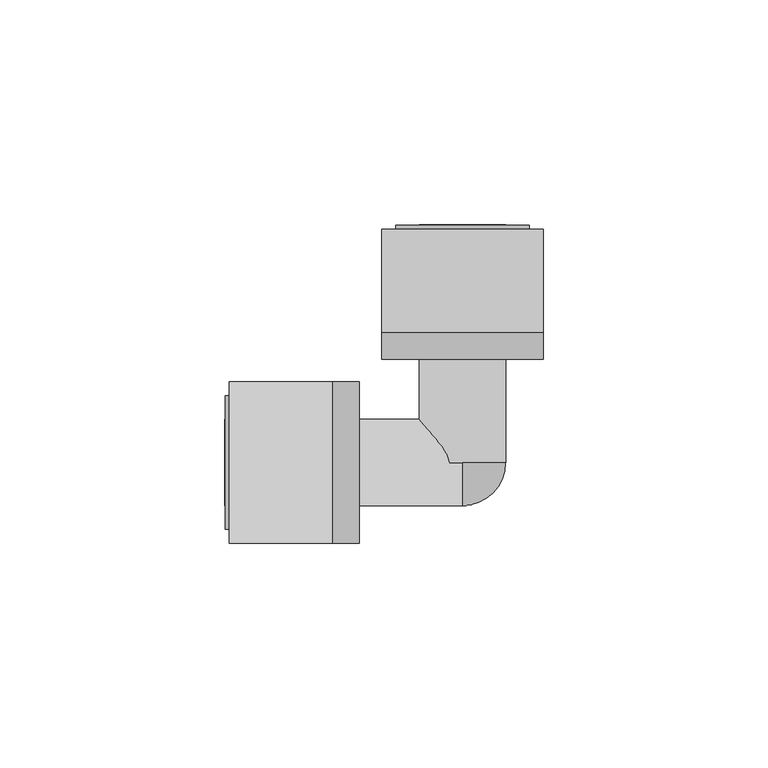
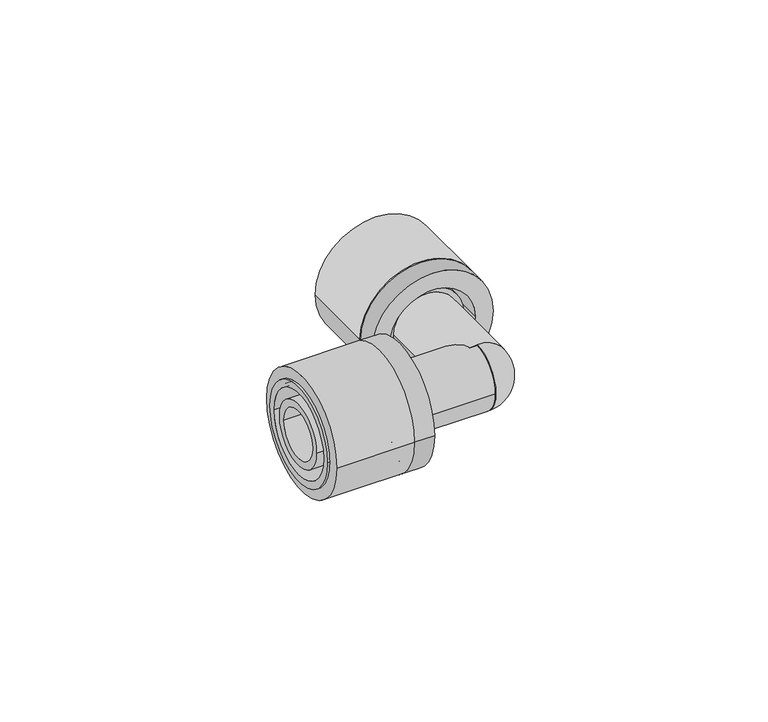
"""IFC4 building model written with IfcOpenShell, lengths in millimetres: pipe fitting geometry, FASTLOC_Corner EX+ : FSL C EX+ AT."""

from ifc_helpers import new_model, si_unit, point, frame, origin, origin_2d, place, context, project, spatial, polyline, circle_curve, ellipse_curve, trimmed, segment, composite_curve, outline, extrude, source, transform, mapped, element, save
from ifc_brep_helpers import plane_surface, cylinder_surface, revolved_surface, advanced_brep


def pipe_fitting_a5f7744a(model_context):
    return source(origin(), model_context, "Body", "SolidModel", [
        extrude(outline(composite_curve([segment(trimmed(circle_curve(origin_2d(), 18.0), [point((0.0, 18.0))], [point((0.0, -18.0))], False, "CARTESIAN"), True, "CONTINUOUS"), segment(trimmed(circle_curve(origin_2d(), 18.0), [point((0.0, -18.0))], [point((0.0, 18.0))], False, "CARTESIAN"), True, "CONTINUOUS")], self_intersect=False), holes=[composite_curve([segment(trimmed(circle_curve(origin_2d(), 13.5), [point((0.0, 13.5))], [point((0.0, -13.5))], True, "CARTESIAN"), True, "CONTINUOUS"), segment(trimmed(circle_curve(origin_2d(), 13.5), [point((0.0, -13.5))], [point((0.0, 13.5))], True, "CARTESIAN"), True, "CONTINUOUS")], self_intersect=False)]), frame((0.0, 29.0, 0.0), z_axis=(0.0, 1.0, 0.0), x_axis=(0.0, 0.0, 1.0)), (0.0, 0.0, 1.0), 23.0),
        advanced_brep(
        [(-18.0, 29.0, 0.0), (18.0, 29.0, 0.0), (18.0, 23.0, 0.0), (-18.0, 23.0, 0.0), (-14.85, 52.8, 0.0), (14.85, 52.8, 0.0), (14.85, 29.0, 0.0), (-14.85, 29.0, 0.0), (-12.65, 23.0, 0.0), (12.65, 23.0, 0.0), (12.65, 52.8, 0.0), (-12.65, 52.8, 0.0)],
        [
            (0, 1, circle_curve(frame((0.0, 29.0, 0.0), z_axis=(0.0, -1.0, 0.0), x_axis=(1.0, 0.0, 0.0)), 18.0)),
            (1, 2),
            (2, 3, circle_curve(frame((0.0, 23.0, 0.0), z_axis=(0.0, 1.0, 0.0), x_axis=(1.0, 0.0, 0.0)), 18.0)),
            (3, 0),
            (4, 5, circle_curve(frame((0.0, 52.8, 0.0), z_axis=(0.0, -1.0, 0.0), x_axis=(1.0, 0.0, 0.0)), 14.85)),
            (5, 6),
            (6, 7, circle_curve(frame((0.0, 29.0, 0.0), z_axis=(0.0, 1.0, 0.0), x_axis=(1.0, 0.0, 0.0)), 14.85)),
            (7, 4),
            (8, 9, circle_curve(frame((0.0, 23.0, 0.0), z_axis=(0.0, -1.0, 0.0), x_axis=(1.0, 0.0, 0.0)), 12.65)),
            (9, 10),
            (10, 11, circle_curve(frame((0.0, 52.8, 0.0), z_axis=(0.0, 1.0, 0.0), x_axis=(1.0, 0.0, 0.0)), 12.65)),
            (11, 8),
            (1, 0, circle_curve(frame((0.0, 29.0, 0.0), z_axis=(0.0, -1.0, 0.0), x_axis=(-1.0, 0.0, 0.0)), 18.0)),
            (3, 2, circle_curve(frame((0.0, 23.0, 0.0), z_axis=(0.0, 1.0, 0.0), x_axis=(-1.0, 0.0, 0.0)), 18.0)),
            (6, 7, circle_curve(frame((0.0, 29.0, 0.0), z_axis=(0.0, -1.0, 0.0), x_axis=(-1.0, 0.0, 0.0)), 14.85)),
            (5, 4, circle_curve(frame((0.0, 52.8, 0.0), z_axis=(0.0, -1.0, 0.0), x_axis=(-1.0, 0.0, 0.0)), 14.85)),
            (10, 11, circle_curve(frame((0.0, 52.8, 0.0), z_axis=(0.0, -1.0, 0.0), x_axis=(-1.0, 0.0, 0.0)), 12.65)),
            (9, 8, circle_curve(frame((0.0, 23.0, 0.0), z_axis=(0.0, -1.0, 0.0), x_axis=(-1.0, 0.0, 0.0)), 12.65)),
        ],
        [
            cylinder_surface(frame((0.0, 23.0, 0.0), z_axis=(0.0, 1.0, 0.0), x_axis=(1.0, 0.0, 0.0)), 18.0),
            cylinder_surface(frame((0.0, 23.0, 0.0), z_axis=(0.0, 1.0, 0.0), x_axis=(1.0, 0.0, 0.0)), 14.85),
            revolved_surface(polyline([(12.65, 52.8, 0.0), (12.65, 23.0, 0.0)]), (0.0, 23.0, 0.0), (0.0, 1.0, 0.0)),
            cylinder_surface(frame((0.0, 23.0, 0.0), z_axis=(0.0, 1.0, 0.0), x_axis=(-1.0, 0.0, 0.0)), 18.0),
            plane_surface(frame((0.0, 29.0, 0.0), z_axis=(0.0, 1.0, 0.0), x_axis=(-1.0, 0.0, 0.0))),
            cylinder_surface(frame((0.0, 23.0, 0.0), z_axis=(0.0, 1.0, 0.0), x_axis=(-1.0, 0.0, 0.0)), 14.85),
            plane_surface(frame((0.0, 52.8, 0.0), z_axis=(0.0, 1.0, 0.0), x_axis=(-1.0, 0.0, 0.0))),
            revolved_surface(polyline([(-12.65, 52.8, 0.0), (-12.65, 23.0, 0.0)]), (0.0, 23.0, 0.0), (0.0, 1.0, 0.0)),
            plane_surface(frame((0.0, 23.0, 0.0), z_axis=(0.0, -1.0, 0.0), x_axis=(-1.0, 0.0, 0.0))),
        ],
        [
            (0, [[1, 2, 3, 4]]),
            (1, [[5, 6, 7, 8]]),
            (2, [[9, 10, 11, 12]]),
            (3, [[13, -4, 14, -2]]),
            (4, [[-13, -1], [15, -7]]),
            (5, [[16, -8, -15, -6]]),
            (6, [[-16, -5], [17, -11]]),
            (7, [[18, -12, -17, -10]]),
            (8, [[-14, -3], [-18, -9]]),
        ],
    ),
        extrude(outline(composite_curve([segment(trimmed(circle_curve(origin_2d(), 18.0), [point((18.0, 0.0))], [point((-18.0, 0.0))], False, "CARTESIAN"), True, "CONTINUOUS"), segment(trimmed(circle_curve(origin_2d(), 18.0), [point((-18.0, 0.0))], [point((18.0, 0.0))], False, "CARTESIAN"), True, "CONTINUOUS")], self_intersect=False), holes=[composite_curve([segment(trimmed(circle_curve(origin_2d(), 13.5), [point((13.5, 0.0))], [point((-13.5, 0.0))], True, "CARTESIAN"), True, "CONTINUOUS"), segment(trimmed(circle_curve(origin_2d(), 13.5), [point((-13.5, 0.0))], [point((13.5, 0.0))], True, "CARTESIAN"), True, "CONTINUOUS")], self_intersect=False)]), frame((-52.0, 0.0, 0.0), z_axis=(1.0, 0.0, 0.0), x_axis=(0.0, 1.0, 0.0)), (0.0, 0.0, 1.0), 23.0),
        advanced_brep(
        [(-29.0, -18.0, 0.0), (-29.0, 18.0, 0.0), (-23.0, 18.0, 0.0), (-23.0, -18.0, 0.0), (-52.8, -14.85, 0.0), (-52.8, 14.85, 0.0), (-29.0, 14.85, 0.0), (-29.0, -14.85, 0.0), (-23.0, -12.65, 0.0), (-23.0, 12.65, 0.0), (-52.8, 12.65, 0.0), (-52.8, -12.65, 0.0)],
        [
            (0, 1, circle_curve(frame((-29.0, 0.0, 0.0), z_axis=(1.0, 0.0, 0.0), x_axis=(0.0, 1.0, 0.0)), 18.0)),
            (1, 2),
            (2, 3, circle_curve(frame((-23.0, 0.0, 0.0), z_axis=(-1.0, 0.0, 0.0), x_axis=(0.0, 1.0, 0.0)), 18.0)),
            (3, 0),
            (4, 5, circle_curve(frame((-52.8, 0.0, 0.0), z_axis=(1.0, 0.0, 0.0), x_axis=(0.0, 1.0, 0.0)), 14.85)),
            (5, 6),
            (6, 7, circle_curve(frame((-29.0, 0.0, 0.0), z_axis=(-1.0, 0.0, 0.0), x_axis=(0.0, 1.0, 0.0)), 14.85)),
            (7, 4),
            (8, 9, circle_curve(frame((-23.0, 0.0, 0.0), z_axis=(1.0, 0.0, 0.0), x_axis=(0.0, 1.0, 0.0)), 12.65)),
            (9, 10),
            (10, 11, circle_curve(frame((-52.8, 0.0, 0.0), z_axis=(-1.0, 0.0, 0.0), x_axis=(0.0, 1.0, 0.0)), 12.65)),
            (11, 8),
            (1, 0, circle_curve(frame((-29.0, 0.0, 0.0), z_axis=(1.0, 0.0, 0.0), x_axis=(0.0, -1.0, 0.0)), 18.0)),
            (3, 2, circle_curve(frame((-23.0, 0.0, 0.0), z_axis=(-1.0, 0.0, 0.0), x_axis=(0.0, -1.0, 0.0)), 18.0)),
            (6, 7, circle_curve(frame((-29.0, 0.0, 0.0), z_axis=(1.0, 0.0, 0.0), x_axis=(0.0, -1.0, 0.0)), 14.85)),
            (5, 4, circle_curve(frame((-52.8, 0.0, 0.0), z_axis=(1.0, 0.0, 0.0), x_axis=(0.0, -1.0, 0.0)), 14.85)),
            (10, 11, circle_curve(frame((-52.8, 0.0, 0.0), z_axis=(1.0, 0.0, 0.0), x_axis=(0.0, -1.0, 0.0)), 12.65)),
            (9, 8, circle_curve(frame((-23.0, 0.0, 0.0), z_axis=(1.0, 0.0, 0.0), x_axis=(0.0, -1.0, 0.0)), 12.65)),
        ],
        [
            cylinder_surface(frame((-23.0, 0.0, 0.0), z_axis=(-1.0, 0.0, 0.0), x_axis=(0.0, 1.0, 0.0)), 18.0),
            cylinder_surface(frame((-23.0, 0.0, 0.0), z_axis=(-1.0, 0.0, 0.0), x_axis=(0.0, 1.0, 0.0)), 14.85),
            revolved_surface(polyline([(-52.8, 12.65, 0.0), (-23.0, 12.65, 0.0)]), (-23.0, 0.0, 0.0), (-1.0, 0.0, 0.0)),
            cylinder_surface(frame((-23.0, 0.0, 0.0), z_axis=(-1.0, 0.0, 0.0), x_axis=(0.0, -1.0, 0.0)), 18.0),
            plane_surface(frame((-29.0, 0.0, 0.0), z_axis=(-1.0, 0.0, 0.0), x_axis=(0.0, -1.0, 0.0))),
            cylinder_surface(frame((-23.0, 0.0, 0.0), z_axis=(-1.0, 0.0, 0.0), x_axis=(0.0, -1.0, 0.0)), 14.85),
            plane_surface(frame((-52.8, 0.0, 0.0), z_axis=(-1.0, 0.0, 0.0), x_axis=(0.0, -1.0, 0.0))),
            revolved_surface(polyline([(-52.8, -12.65, 0.0), (-23.0, -12.65, 0.0)]), (-23.0, 0.0, 0.0), (-1.0, 0.0, 0.0)),
            plane_surface(frame((-23.0, 0.0, 0.0), z_axis=(1.0, 0.0, 0.0), x_axis=(0.0, -1.0, 0.0))),
        ],
        [
            (0, [[1, 2, 3, 4]]),
            (1, [[5, 6, 7, 8]]),
            (2, [[9, 10, 11, 12]]),
            (3, [[13, -4, 14, -2]]),
            (4, [[-13, -1], [15, -7]]),
            (5, [[16, -8, -15, -6]]),
            (6, [[-16, -5], [17, -11]]),
            (7, [[18, -12, -17, -10]]),
            (8, [[-14, -3], [-18, -9]]),
        ],
    ),
        advanced_brep(
        [(0.0, 0.0, 9.6), (0.0, 0.0, 0.0), (0.0, -9.6, 0.0), (0.0, 0.0, -9.6)],
        [
            (0, 1),
            (1, 2),
            (2, 0, circle_curve(frame((0.0, 0.0, 0.0), z_axis=(-1.0, 0.0, 0.0), x_axis=(0.0, 0.0, 1.0)), 9.6)),
            (3, 2, circle_curve(frame((0.0, 0.0, 0.0), z_axis=(-1.0, 0.0, 0.0), x_axis=(0.0, 0.0, -1.0)), 9.6)),
            (1, 3),
            (0, 3, circle_curve(frame((0.0, 0.0, 0.0), z_axis=(0.0, 1.0, 0.0), x_axis=(0.0, 0.0, 1.0)), 9.6)),
        ],
        [
            plane_surface(frame((0.0, 0.0, 0.0), z_axis=(-1.0, 0.0, 0.0), x_axis=(0.0, 0.0, 1.0))),
            plane_surface(frame((0.0, 0.0, 0.0), z_axis=(-1.0, 0.0, 0.0), x_axis=(0.0, 0.0, -1.0))),
            plane_surface(frame((0.0, 0.0, 0.0), z_axis=(0.0, 1.0, 0.0), x_axis=(0.0, 0.0, 1.0))),
            revolved_surface(trimmed(ellipse_curve(frame((0.0, 0.0, 0.0), z_axis=(-1.0, 0.0, 0.0), x_axis=(0.0, 0.0, 1.0)), 9.6, 9.6), [point((0.0, -9.6, 0.0))], [point((0.0, 0.0, 9.6))], True, "CARTESIAN"), (0.0, 0.0, 0.0), (0.0, 1.0, 0.0)),
        ],
        [
            (0, [[1, 2, 3]]),
            (1, [[4, -2, 5]]),
            (2, [[-1, 6, -5]]),
            (3, [[-6, -3, -4]]),
        ],
    ),
        advanced_brep(
        [(7.35, 53.0, 0.0), (-7.35, 53.0, 0.0), (-7.35, 0.0, 0.0), (7.35, 0.0, 0.0), (9.6, 29.0, 0.0), (-9.6, 29.0, 0.0), (-9.6, 53.0, 0.0), (9.6, 53.0, 0.0), (11.1, 26.2, 0.0), (-11.1, 26.2, 0.0), (-11.1, 29.0, 0.0), (11.1, 29.0, 0.0), (9.6, 0.0, 0.0), (-9.6, 0.0, 0.0), (-9.6, 26.2, 0.0), (9.6, 26.2, 0.0)],
        [
            (0, 1, circle_curve(frame((0.0, 53.0, 0.0), z_axis=(0.0, 1.0, 0.0), x_axis=(-1.0, 0.0, 0.0)), 7.35)),
            (1, 2),
            (2, 3, circle_curve(frame((0.0, 0.0, 0.0), z_axis=(0.0, -1.0, 0.0), x_axis=(-1.0, 0.0, 0.0)), 7.35)),
            (3, 0),
            (4, 5, circle_curve(frame((0.0, 29.0, 0.0), z_axis=(0.0, 1.0, 0.0), x_axis=(-1.0, 0.0, 0.0)), 9.6)),
            (5, 6),
            (6, 7, circle_curve(frame((0.0, 53.0, 0.0), z_axis=(0.0, -1.0, 0.0), x_axis=(-1.0, 0.0, 0.0)), 9.6)),
            (7, 4),
            (8, 9, circle_curve(frame((0.0, 26.2, 0.0), z_axis=(0.0, 1.0, 0.0), x_axis=(-1.0, 0.0, 0.0)), 11.1)),
            (9, 10),
            (10, 11, circle_curve(frame((0.0, 29.0, 0.0), z_axis=(0.0, -1.0, 0.0), x_axis=(-1.0, 0.0, 0.0)), 11.1)),
            (11, 8),
            (12, 13, circle_curve(frame((0.0, 0.0, 0.0), z_axis=(0.0, 1.0, 0.0), x_axis=(-1.0, 0.0, 0.0)), 9.6)),
            (13, 14),
            (14, 15, circle_curve(frame((0.0, 26.2, 0.0), z_axis=(0.0, -1.0, 0.0), x_axis=(-1.0, 0.0, 0.0)), 9.6)),
            (15, 12),
            (1, 0, circle_curve(frame((0.0, 53.0, 0.0), z_axis=(0.0, 1.0, 0.0), x_axis=(1.0, 0.0, 0.0)), 7.35)),
            (3, 2, circle_curve(frame((0.0, 0.0, 0.0), z_axis=(0.0, -1.0, 0.0), x_axis=(1.0, 0.0, 0.0)), 7.35)),
            (6, 7, circle_curve(frame((0.0, 53.0, 0.0), z_axis=(0.0, 1.0, 0.0), x_axis=(1.0, 0.0, 0.0)), 9.6)),
            (5, 4, circle_curve(frame((0.0, 29.0, 0.0), z_axis=(0.0, 1.0, 0.0), x_axis=(1.0, 0.0, 0.0)), 9.6)),
            (10, 11, circle_curve(frame((0.0, 29.0, 0.0), z_axis=(0.0, 1.0, 0.0), x_axis=(1.0, 0.0, 0.0)), 11.1)),
            (9, 8, circle_curve(frame((0.0, 26.2, 0.0), z_axis=(0.0, 1.0, 0.0), x_axis=(1.0, 0.0, 0.0)), 11.1)),
            (14, 15, circle_curve(frame((0.0, 26.2, 0.0), z_axis=(0.0, 1.0, 0.0), x_axis=(1.0, 0.0, 0.0)), 9.6)),
            (13, 12, circle_curve(frame((0.0, 0.0, 0.0), z_axis=(0.0, 1.0, 0.0), x_axis=(1.0, 0.0, 0.0)), 9.6)),
        ],
        [
            revolved_surface(polyline([(-7.35, 0.0, 0.0), (-7.35, 53.0, 0.0)]), (0.0, 0.0, 0.0), (0.0, -1.0, 0.0)),
            cylinder_surface(frame((0.0, 0.0, 0.0), z_axis=(0.0, -1.0, 0.0), x_axis=(-1.0, 0.0, 0.0)), 9.6),
            cylinder_surface(frame((0.0, 0.0, 0.0), z_axis=(0.0, -1.0, 0.0), x_axis=(-1.0, 0.0, 0.0)), 11.1),
            revolved_surface(polyline([(7.35, 0.0, 0.0), (7.35, 53.0, 0.0)]), (0.0, 0.0, 0.0), (0.0, -1.0, 0.0)),
            plane_surface(frame((0.0, 53.0, 0.0), z_axis=(0.0, 1.0, 0.0), x_axis=(1.0, 0.0, 0.0))),
            cylinder_surface(frame((0.0, 0.0, 0.0), z_axis=(0.0, -1.0, 0.0), x_axis=(1.0, 0.0, 0.0)), 9.6),
            plane_surface(frame((0.0, 29.0, 0.0), z_axis=(0.0, 1.0, 0.0), x_axis=(1.0, 0.0, 0.0))),
            cylinder_surface(frame((0.0, 0.0, 0.0), z_axis=(0.0, -1.0, 0.0), x_axis=(1.0, 0.0, 0.0)), 11.1),
            plane_surface(frame((0.0, 26.2, 0.0), z_axis=(0.0, -1.0, 0.0), x_axis=(1.0, 0.0, 0.0))),
            plane_surface(frame((0.0, 0.0, 0.0), z_axis=(0.0, -1.0, 0.0), x_axis=(1.0, 0.0, 0.0))),
        ],
        [
            (0, [[1, 2, 3, 4]]),
            (1, [[5, 6, 7, 8]]),
            (2, [[9, 10, 11, 12]]),
            (1, [[13, 14, 15, 16]]),
            (3, [[17, -4, 18, -2]]),
            (4, [[19, -7], [-17, -1]]),
            (5, [[20, -8, -19, -6]]),
            (6, [[21, -11], [-20, -5]]),
            (7, [[22, -12, -21, -10]]),
            (8, [[-22, -9], [23, -15]]),
            (5, [[24, -16, -23, -14]]),
            (9, [[-24, -13], [-18, -3]]),
        ],
    ),
        advanced_brep(
        [(0.0, 9.6, 0.0), (0.0, -9.6, 0.0), (-26.2, -9.6, 0.0), (-26.2, 9.6, 0.0), (-26.2, 11.1, 0.0), (-26.2, -11.1, 0.0), (-29.0, -11.1, 0.0), (-29.0, 11.1, 0.0), (-29.0, 9.6, 0.0), (-29.0, -9.6, 0.0), (-53.0, -9.6, 0.0), (-53.0, 9.6, 0.0), (-53.0, 7.35, 0.0), (-53.0, -7.35, 0.0), (0.0, -7.35, 0.0), (0.0, 7.35, 0.0)],
        [
            (0, 1, circle_curve(frame((0.0, 0.0, 0.0), z_axis=(-1.0, 0.0, 0.0), x_axis=(0.0, -1.0, 0.0)), 9.6)),
            (1, 2),
            (2, 3, circle_curve(frame((-26.2, 0.0, 0.0), z_axis=(1.0, 0.0, 0.0), x_axis=(0.0, -1.0, 0.0)), 9.6)),
            (3, 0),
            (4, 5, circle_curve(frame((-26.2, 0.0, 0.0), z_axis=(-1.0, 0.0, 0.0), x_axis=(0.0, -1.0, 0.0)), 11.1)),
            (5, 6),
            (6, 7, circle_curve(frame((-29.0, 0.0, 0.0), z_axis=(1.0, 0.0, 0.0), x_axis=(0.0, -1.0, 0.0)), 11.1)),
            (7, 4),
            (8, 9, circle_curve(frame((-29.0, 0.0, 0.0), z_axis=(-1.0, 0.0, 0.0), x_axis=(0.0, -1.0, 0.0)), 9.6)),
            (9, 10),
            (10, 11, circle_curve(frame((-53.0, 0.0, 0.0), z_axis=(1.0, 0.0, 0.0), x_axis=(0.0, -1.0, 0.0)), 9.6)),
            (11, 8),
            (12, 13, circle_curve(frame((-53.0, 0.0, 0.0), z_axis=(-1.0, 0.0, 0.0), x_axis=(0.0, -1.0, 0.0)), 7.35)),
            (13, 14),
            (14, 15, circle_curve(frame((0.0, 0.0, 0.0), z_axis=(1.0, 0.0, 0.0), x_axis=(0.0, -1.0, 0.0)), 7.35)),
            (15, 12),
            (0, 1, circle_curve(frame((0.0, 0.0, 0.0), z_axis=(1.0, 0.0, 0.0), x_axis=(0.0, 1.0, 0.0)), 9.6)),
            (14, 15, circle_curve(frame((0.0, 0.0, 0.0), z_axis=(-1.0, 0.0, 0.0), x_axis=(0.0, 1.0, 0.0)), 7.35)),
            (3, 2, circle_curve(frame((-26.2, 0.0, 0.0), z_axis=(1.0, 0.0, 0.0), x_axis=(0.0, 1.0, 0.0)), 9.6)),
            (4, 5, circle_curve(frame((-26.2, 0.0, 0.0), z_axis=(1.0, 0.0, 0.0), x_axis=(0.0, 1.0, 0.0)), 11.1)),
            (7, 6, circle_curve(frame((-29.0, 0.0, 0.0), z_axis=(1.0, 0.0, 0.0), x_axis=(0.0, 1.0, 0.0)), 11.1)),
            (8, 9, circle_curve(frame((-29.0, 0.0, 0.0), z_axis=(1.0, 0.0, 0.0), x_axis=(0.0, 1.0, 0.0)), 9.6)),
            (11, 10, circle_curve(frame((-53.0, 0.0, 0.0), z_axis=(1.0, 0.0, 0.0), x_axis=(0.0, 1.0, 0.0)), 9.6)),
            (12, 13, circle_curve(frame((-53.0, 0.0, 0.0), z_axis=(1.0, 0.0, 0.0), x_axis=(0.0, 1.0, 0.0)), 7.35)),
        ],
        [
            cylinder_surface(frame((0.0, 0.0, 0.0), z_axis=(1.0, 0.0, 0.0), x_axis=(0.0, -1.0, 0.0)), 9.6),
            cylinder_surface(frame((0.0, 0.0, 0.0), z_axis=(1.0, 0.0, 0.0), x_axis=(0.0, -1.0, 0.0)), 11.1),
            revolved_surface(polyline([(0.0, -7.35, 0.0), (-53.0, -7.35, 0.0)]), (0.0, 0.0, 0.0), (1.0, 0.0, 0.0)),
            plane_surface(frame((0.0, 0.0, 0.0), z_axis=(1.0, 0.0, 0.0), x_axis=(0.0, 1.0, 0.0))),
            cylinder_surface(frame((0.0, 0.0, 0.0), z_axis=(1.0, 0.0, 0.0), x_axis=(0.0, 1.0, 0.0)), 9.6),
            plane_surface(frame((-26.2, 0.0, 0.0), z_axis=(1.0, 0.0, 0.0), x_axis=(0.0, 1.0, 0.0))),
            cylinder_surface(frame((0.0, 0.0, 0.0), z_axis=(1.0, 0.0, 0.0), x_axis=(0.0, 1.0, 0.0)), 11.1),
            plane_surface(frame((-29.0, 0.0, 0.0), z_axis=(-1.0, 0.0, 0.0), x_axis=(0.0, 1.0, 0.0))),
            plane_surface(frame((-53.0, 0.0, 0.0), z_axis=(-1.0, 0.0, 0.0), x_axis=(0.0, 1.0, 0.0))),
            revolved_surface(polyline([(0.0, 7.35, 0.0), (-53.0, 7.35, 0.0)]), (0.0, 0.0, 0.0), (1.0, 0.0, 0.0)),
        ],
        [
            (0, [[1, 2, 3, 4]]),
            (1, [[5, 6, 7, 8]]),
            (0, [[9, 10, 11, 12]]),
            (2, [[13, 14, 15, 16]]),
            (3, [[17, -1], [18, -15]]),
            (4, [[-17, -4, 19, -2]]),
            (5, [[20, -5], [-19, -3]]),
            (6, [[-20, -8, 21, -6]]),
            (7, [[-21, -7], [22, -9]]),
            (4, [[-22, -12, 23, -10]]),
            (8, [[-23, -11], [24, -13]]),
            (9, [[-24, -16, -18, -14]]),
        ],
    ),
    ])


if __name__ == "__main__":
    model = new_model("IFC4")
    model_context = context("Model", 3, world=origin())
    ifc_project = project(units=[si_unit("LENGTHUNIT", "METRE", prefix="MILLI")], contexts=[model_context])
    site = spatial("IfcSite", under=ifc_project)
    building = spatial("IfcBuilding", under=site)
    placement = place(None, origin())
    pipe_fitting_shape = pipe_fitting_a5f7744a(model_context)
    element("IfcPipeFitting", 1, ObjectType="FASTLOC_Corner EX+ : FSL C EX+ AT", at=placement, inside=building, context=model_context, shape_type="MappedRepresentation", body=[
        mapped(pipe_fitting_shape, transform((0.0, 0.0, 0.0), x_axis=(1.0, 0.0, 0.0), y_axis=(0.0, 1.0, 0.0), z_axis=(0.0, 0.0, 1.0))),
    ])
    save(model, "model.ifc")
